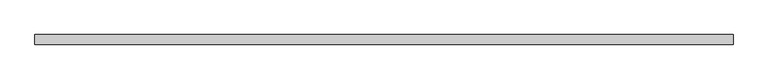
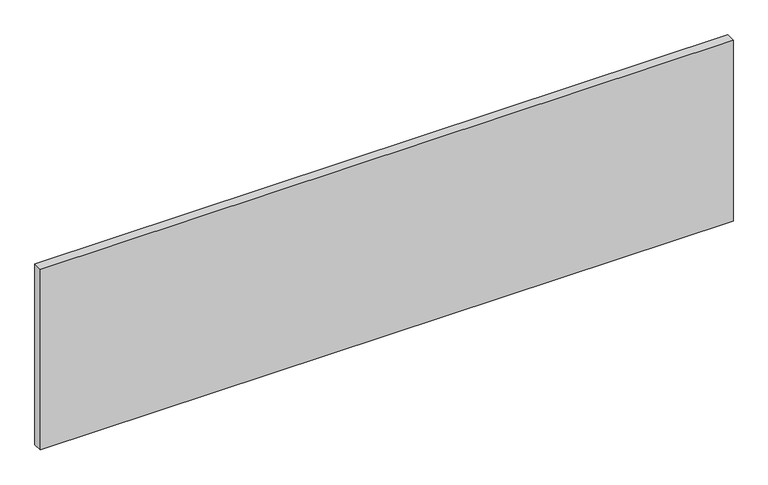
"""IFC4 building model written with IfcOpenShell, lengths in millimetres: plate geometry, Lod 200 Regolare 800 Horizontal : Azuro."""

from ifc_helpers import new_model, si_unit, origin, origin_with_axes, place, context, project, spatial, polyline, outline, extrude, source, transform, mapped, element, save


def plate_3f4dd61e(model_context):
    return source(origin(), model_context, "Body", "SweptSolid", [
        extrude(outline(polyline([(1450.1966549, -40.0), (-1450.1966549, -40.0), (-1450.1966549, 0.0), (1450.1966549, 0.0), (1450.1966549, -40.0)])), origin_with_axes(), (0.0, 0.0, 1.0), 800.0),
    ])


if __name__ == "__main__":
    model = new_model("IFC4")
    model_context = context("Model", 3, world=origin())
    ifc_project = project(units=[si_unit("LENGTHUNIT", "METRE", prefix="MILLI")], contexts=[model_context])
    site = spatial("IfcSite", under=ifc_project)
    building = spatial("IfcBuilding", under=site)
    placement = place(None, origin())
    plate_shape = plate_3f4dd61e(model_context)
    element("IfcPlate", 1, ObjectType="Lod 200 Regolare 800 Horizontal : Azuro", at=placement, inside=building, context=model_context, shape_type="MappedRepresentation", body=[
        mapped(plate_shape, transform((0.0, 0.0, 0.0), x_axis=(1.0, 0.0, 0.0), y_axis=(0.0, 1.0, 0.0), z_axis=(0.0, 0.0, 1.0))),
    ])
    save(model, "model.ifc")
